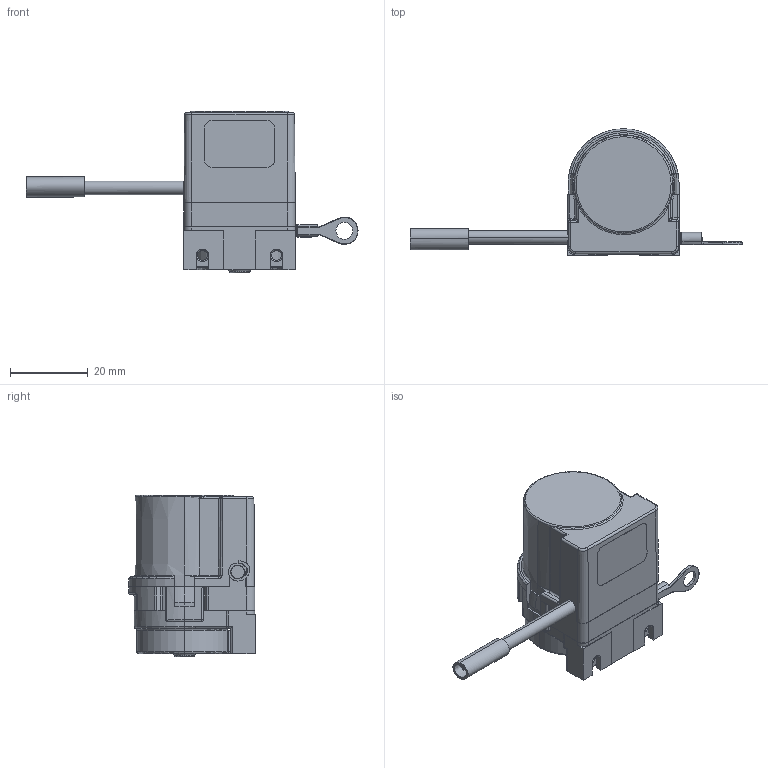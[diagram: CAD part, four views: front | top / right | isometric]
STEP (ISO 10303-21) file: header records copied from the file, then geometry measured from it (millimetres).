
FILE_DESCRIPTION (( 'STEP AP203' ), '1' );
FILE_NAME ('D5.350X.AXXX.0000.STEP', '2014-01-09T08:55:41', ( 'HeirlerN' ), ( 'Microsoft' ), 'SwSTEP 2.0', 'SolidWorks 2013', '' );
FILE_SCHEMA (( 'CONFIG_CONTROL_DESIGN' ));
Length unit declared in the file: millimetre
Products named in the file (1): D5.350X.AXXX.0000
Bounding box: 85.2 x 32.45 x 41.5 mm (x, y, z)
Surface area: 8528 mm2 (no closed solid volume)
Topology: 0 solids, 8 shells, 324 faces, 1090 edges, 743 vertices
Faces by surface type: plane 124, cylinder 108, torus 35, bspline 23, cone 20, sphere 14
Entity records: 14154 total; most frequent: CARTESIAN_POINT 5125, ORIENTED_EDGE 1823, DIRECTION 1767, EDGE_CURVE 1072, VERTEX_POINT 737, VECTOR 615, LINE 615, AXIS2_PLACEMENT_3D 576
